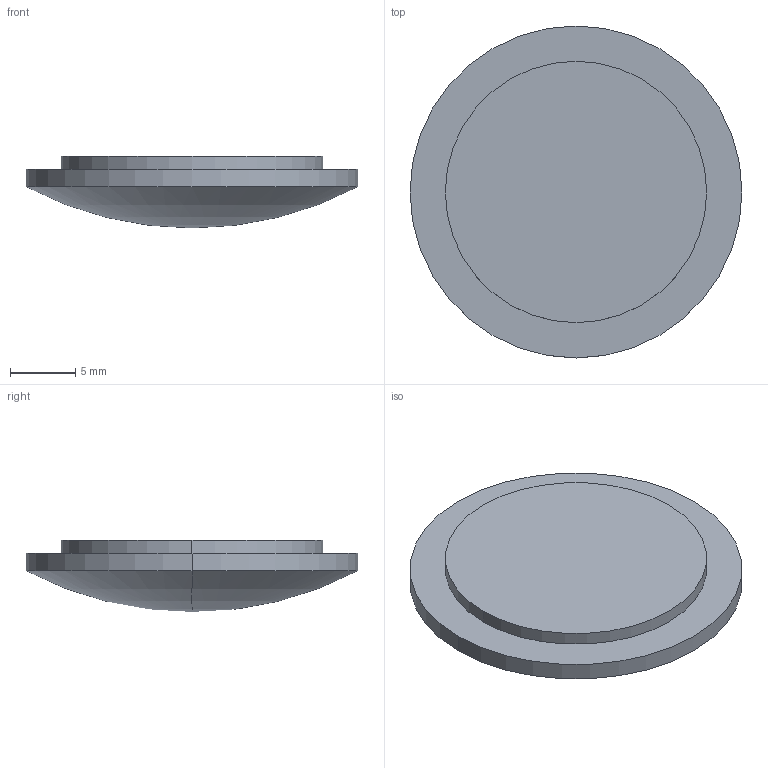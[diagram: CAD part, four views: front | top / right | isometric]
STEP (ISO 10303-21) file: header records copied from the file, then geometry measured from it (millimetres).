
FILE_DESCRIPTION(('STEP AP214'),'1');
FILE_NAME('LL-25-40.STEP','2020-03-09T17:41:10',(' '),(' '),'Spatial InterOp 3D',' ',' ');
FILE_SCHEMA(('AUTOMOTIVE_DESIGN { 1 0 10303 214 1 1 1 1 }'));
Length unit declared in the file: millimetre
Products named in the file (1): 1
Bounding box: 25.4 x 25.4 x 5.5 mm (x, y, z)
Volume: 1812.7 mm3; surface area: 1843.5 mm2
Topology: 2 solids, 2 shells, 9 faces, 16 edges, 9 vertices
Faces by surface type: cylinder 4, plane 3, sphere 2
Entity records: 229 total; most frequent: DIRECTION 46, CARTESIAN_POINT 34, ORIENTED_EDGE 28, AXIS2_PLACEMENT_3D 21, EDGE_CURVE 14, CIRCLE 10, ADVANCED_FACE 9, FACE_OUTER_BOUND 9
